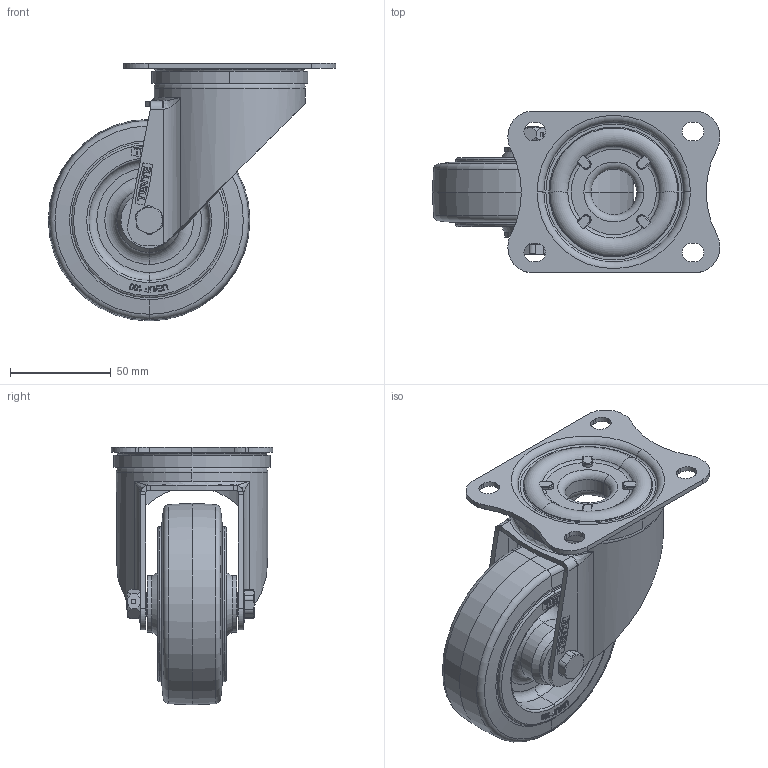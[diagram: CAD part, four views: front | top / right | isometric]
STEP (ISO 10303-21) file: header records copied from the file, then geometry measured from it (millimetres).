
FILE_DESCRIPTION (( 'STEP AP203' ), '1' );
FILE_NAME ('TENTE Koleèko otoèné 3470 mìkèený bìhoun, prùmìr 100 mm, bez brzdy_401509_3D.STEP', '2022-06-17T11:50:07', ( '' ), ( '' ), 'SwSTEP 2.0', 'SolidWorks 2019', '' );
FILE_SCHEMA (( 'CONFIG_CONTROL_DESIGN' ));
Length unit declared in the file: millimetre
Products named in the file (1): TENTE Koleèko otoèné 3470 mìkèený bìhoun, prùmìr 100 mm, bez brzdy_401509_3D
Bounding box: 142.49 x 79.99 x 127.89 mm (x, y, z)
Volume: 263442 mm3; surface area: 106616.7 mm2
Topology: 35 solids, 35 shells, 1513 faces, 4125 edges, 2689 vertices
Faces by surface type: cylinder 830, plane 434, torus 108, bspline 56, sphere 46, cone 39
Entity records: 51175 total; most frequent: CARTESIAN_POINT 12165, DIRECTION 8742, ORIENTED_EDGE 8010, EDGE_CURVE 4005, AXIS2_PLACEMENT_3D 3480, VERTEX_POINT 2623, CIRCLE 2022, VECTOR 1782
